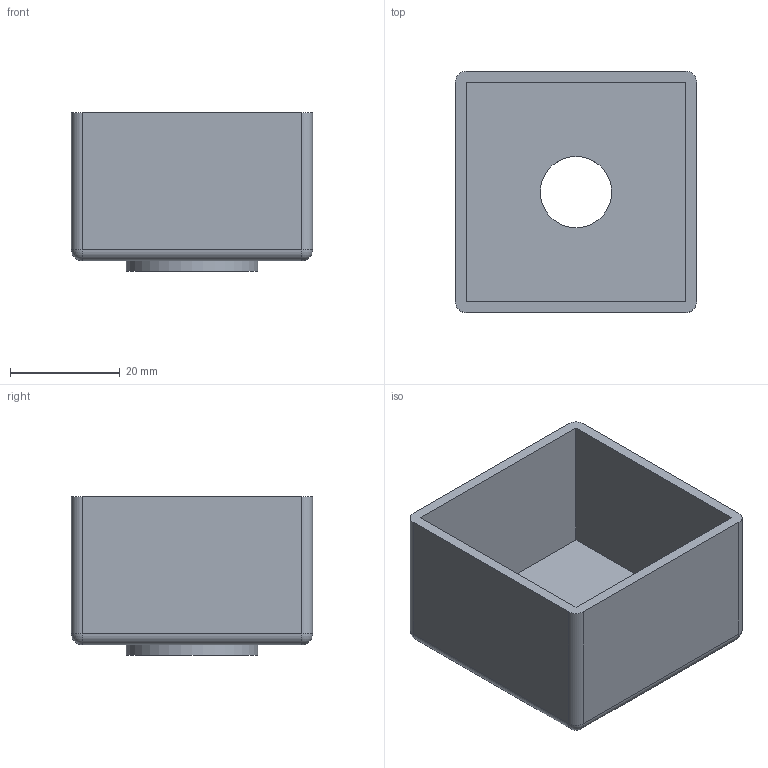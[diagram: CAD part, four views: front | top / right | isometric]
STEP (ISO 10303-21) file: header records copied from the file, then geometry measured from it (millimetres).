
FILE_DESCRIPTION(('STEP AP214'),'1');
FILE_NAME('EC40-H12.stp','2017-07-24T04:48:02',(' '),(' '),'Spatial InterOp 3D',' ',' ');
FILE_SCHEMA(('automotive_design'));
Length unit declared in the file: millimetre
Products named in the file (3): EC40-H12; M12PW
Assembly tree (2 placements, depth 2):
  EC40-H12
    EC40-H12
    M12PW
Bounding box: 44 x 44 x 28.9 mm (x, y, z)
Volume: 12375.5 mm3; surface area: 13050.9 mm2
Topology: 2 solids, 2 shells, 28 faces, 61 edges, 34 vertices
Faces by surface type: plane 13, cylinder 11, sphere 4
Full cylindrical faces by diameter (mm): 13 x2, 24 x1
Entity records: 1008 total; most frequent: DIRECTION 138, CARTESIAN_POINT 119, ORIENTED_EDGE 108, EDGE_CURVE 54, AXIS2_PLACEMENT_3D 53, EDGE_LOOP 36, VERTEX_POINT 34, LINE 32
